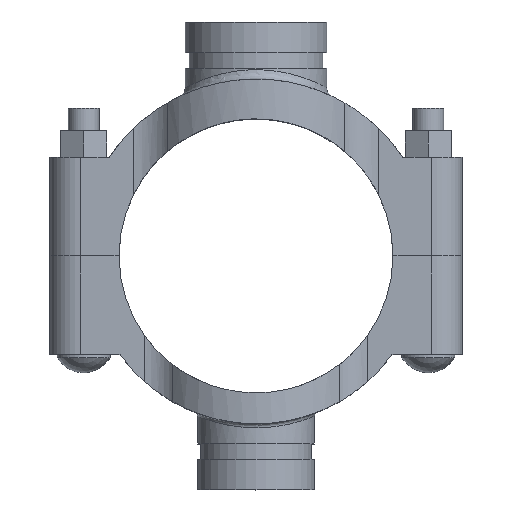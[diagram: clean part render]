
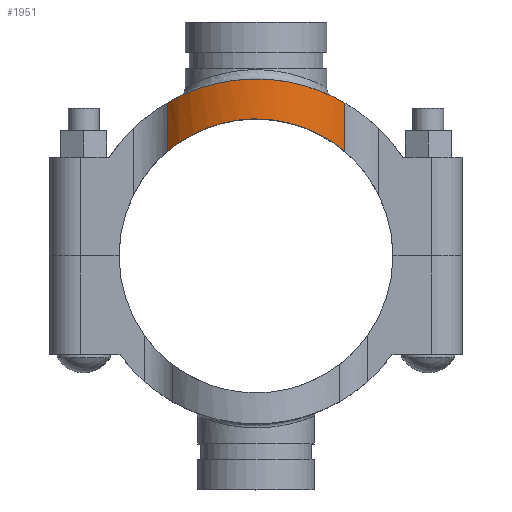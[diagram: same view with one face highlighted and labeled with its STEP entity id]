
A CAD part, top view. The second image highlights one B-rep face of the part: STEP entity #1951.
In plain terms, the highlighted cylindrical face has radius 58.801 mm (diameter 117.602 mm), a partial arc.
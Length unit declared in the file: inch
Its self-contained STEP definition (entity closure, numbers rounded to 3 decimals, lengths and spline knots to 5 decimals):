
#33=B_SPLINE_CURVE_WITH_KNOTS('',3,(#3198,#3199,#3200,#3201,#3202,#3203,
#3204,#3205,#3206,#3207,#3208,#3209,#3210,#3211,#3212,#3213,#3214,#3215,
#3216,#3217,#3218,#3219),.UNSPECIFIED.,.F.,.F.,(4,2,2,2,2,2,2,2,2,2,4),
(3.96225,4.61996,5.76425,6.90855,8.05284,
9.19714,10.34143,11.48573,12.63002,13.77431,
14.43203),.UNSPECIFIED.);
#37=B_SPLINE_CURVE_WITH_KNOTS('',3,(#3454,#3455,#3456,#3457,#3458,#3459,
#3460,#3461,#3462,#3463,#3464,#3465,#3466,#3467,#3468,#3469,#3470,#3471,
#3472,#3473,#3474,#3475),.UNSPECIFIED.,.F.,.F.,(4,2,2,2,2,2,2,2,2,2,4),
(23.38464,24.08328,25.25786,26.43243,27.60701,
28.78159,29.95616,31.13074,32.30531,33.47989,
34.17853),.UNSPECIFIED.);
#80=CYLINDRICAL_SURFACE('',#2166,2.315);
#183=FACE_OUTER_BOUND('',#299,.T.);
#299=EDGE_LOOP('',(#1433,#1434,#1435,#1436));
#445=LINE('',#3562,#593);
#446=LINE('',#3564,#594);
#593=VECTOR('',#2537,0.3937);
#594=VECTOR('',#2540,0.3937);
#794=VERTEX_POINT('',#3184);
#795=VERTEX_POINT('',#3197);
#842=VERTEX_POINT('',#3440);
#843=VERTEX_POINT('',#3453);
#987=EDGE_CURVE('',#795,#794,#33,.T.);
#1057=EDGE_CURVE('',#843,#842,#37,.T.);
#1075=EDGE_CURVE('',#843,#794,#445,.T.);
#1076=EDGE_CURVE('',#842,#795,#446,.T.);
#1433=ORIENTED_EDGE('',*,*,#1057,.T.);
#1434=ORIENTED_EDGE('',*,*,#1076,.T.);
#1435=ORIENTED_EDGE('',*,*,#987,.T.);
#1436=ORIENTED_EDGE('',*,*,#1075,.F.);
#1951=ADVANCED_FACE('',(#183),#80,.T.);
#2166=AXIS2_PLACEMENT_3D('',#3563,#2538,#2539);
#2537=DIRECTION('',(0.,1.,0.));
#2538=DIRECTION('center_axis',(0.,1.,0.));
#2539=DIRECTION('ref_axis',(0.779,0.,-0.628));
#2540=DIRECTION('',(0.,1.,0.));
#3184=CARTESIAN_POINT('',(1.80242,3.10474,-1.45276));
#3197=CARTESIAN_POINT('',(-1.80242,3.10474,-1.45276));
#3198=CARTESIAN_POINT('Ctrl Pts',(-1.80242,3.10474,-1.45276));
#3199=CARTESIAN_POINT('Ctrl Pts',(-1.74981,3.13528,-1.51803));
#3200=CARTESIAN_POINT('Ctrl Pts',(-1.69434,3.16567,-1.57957));
#3201=CARTESIAN_POINT('Ctrl Pts',(-1.53712,3.24622,-1.73679));
#3202=CARTESIAN_POINT('Ctrl Pts',(-1.42398,3.2982,-1.83139));
#3203=CARTESIAN_POINT('Ctrl Pts',(-1.17587,3.39457,-1.99976));
#3204=CARTESIAN_POINT('Ctrl Pts',(-1.04089,3.43892,-2.07353));
#3205=CARTESIAN_POINT('Ctrl Pts',(-0.75679,3.51239,-2.19323));
#3206=CARTESIAN_POINT('Ctrl Pts',(-0.60736,3.54155,-2.23926));
#3207=CARTESIAN_POINT('Ctrl Pts',(-0.30405,3.58037,-2.30015));
#3208=CARTESIAN_POINT('Ctrl Pts',(-0.15017,3.59,-2.315));
#3209=CARTESIAN_POINT('Ctrl Pts',(0.15017,3.59,-2.315));
#3210=CARTESIAN_POINT('Ctrl Pts',(0.30405,3.58037,-2.30015));
#3211=CARTESIAN_POINT('Ctrl Pts',(0.60736,3.54155,-2.23926));
#3212=CARTESIAN_POINT('Ctrl Pts',(0.75679,3.51239,-2.19323));
#3213=CARTESIAN_POINT('Ctrl Pts',(1.04089,3.43892,-2.07353));
#3214=CARTESIAN_POINT('Ctrl Pts',(1.17587,3.39457,-1.99976));
#3215=CARTESIAN_POINT('Ctrl Pts',(1.42398,3.2982,-1.83139));
#3216=CARTESIAN_POINT('Ctrl Pts',(1.53712,3.24622,-1.73679));
#3217=CARTESIAN_POINT('Ctrl Pts',(1.69434,3.16567,-1.57957));
#3218=CARTESIAN_POINT('Ctrl Pts',(1.74981,3.13528,-1.51803));
#3219=CARTESIAN_POINT('Ctrl Pts',(1.80242,3.10474,-1.45276));
#3440=CARTESIAN_POINT('',(-1.80242,2.1185,-1.45276));
#3453=CARTESIAN_POINT('',(1.80242,2.1185,-1.45276));
#3454=CARTESIAN_POINT('Ctrl Pts',(1.80242,2.1185,-1.45276));
#3455=CARTESIAN_POINT('Ctrl Pts',(1.75003,2.16307,-1.51776));
#3456=CARTESIAN_POINT('Ctrl Pts',(1.6946,2.20685,-1.57931));
#3457=CARTESIAN_POINT('Ctrl Pts',(1.54004,2.31935,-1.73386));
#3458=CARTESIAN_POINT('Ctrl Pts',(1.4296,2.39001,-1.82684));
#3459=CARTESIAN_POINT('Ctrl Pts',(1.18548,2.52002,-1.99393));
#3460=CARTESIAN_POINT('Ctrl Pts',(1.05178,2.57934,-2.06803));
#3461=CARTESIAN_POINT('Ctrl Pts',(0.76823,2.67751,-2.18925));
#3462=CARTESIAN_POINT('Ctrl Pts',(0.61804,2.71643,-2.23647));
#3463=CARTESIAN_POINT('Ctrl Pts',(0.311,2.76844,-2.29936));
#3464=CARTESIAN_POINT('Ctrl Pts',(0.15414,2.7815,-2.315));
#3465=CARTESIAN_POINT('Ctrl Pts',(-0.15414,2.7815,-2.315));
#3466=CARTESIAN_POINT('Ctrl Pts',(-0.311,2.76844,-2.29936));
#3467=CARTESIAN_POINT('Ctrl Pts',(-0.61804,2.71643,-2.23647));
#3468=CARTESIAN_POINT('Ctrl Pts',(-0.76823,2.67751,-2.18925));
#3469=CARTESIAN_POINT('Ctrl Pts',(-1.05178,2.57934,-2.06803));
#3470=CARTESIAN_POINT('Ctrl Pts',(-1.18548,2.52002,-1.99393));
#3471=CARTESIAN_POINT('Ctrl Pts',(-1.4296,2.39001,-1.82684));
#3472=CARTESIAN_POINT('Ctrl Pts',(-1.54004,2.31935,-1.73386));
#3473=CARTESIAN_POINT('Ctrl Pts',(-1.6946,2.20685,-1.57931));
#3474=CARTESIAN_POINT('Ctrl Pts',(-1.75003,2.16307,-1.51776));
#3475=CARTESIAN_POINT('Ctrl Pts',(-1.80242,2.1185,-1.45276));
#3562=CARTESIAN_POINT('',(1.80242,0.,-1.45276));
#3563=CARTESIAN_POINT('Origin',(0.,0.,0.));
#3564=CARTESIAN_POINT('',(-1.80242,0.,-1.45276));
